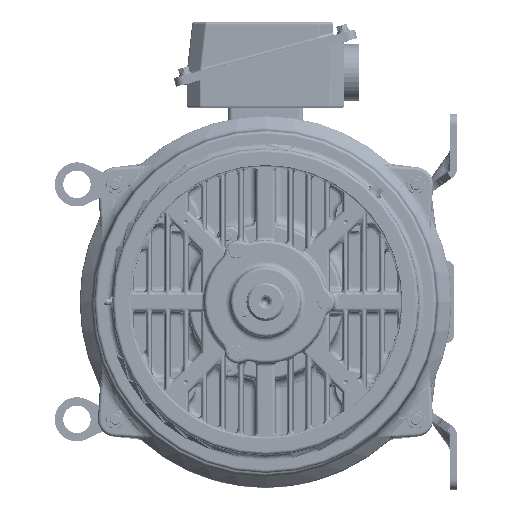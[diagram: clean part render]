
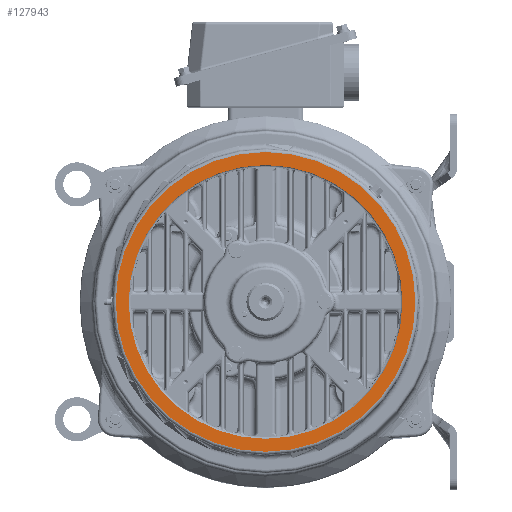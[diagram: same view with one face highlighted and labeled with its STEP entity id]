
A CAD part, left-side view. The second image highlights one B-rep face of the part: STEP entity #127943.
In plain terms, the highlighted planar face has unit normal (-1, 0, 0).
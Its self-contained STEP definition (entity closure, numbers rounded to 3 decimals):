
#9593 = DIRECTION ( 'NONE',  ( 0., 0., 1. ) ) ;
#14271 = VERTEX_POINT ( 'NONE', #148088 ) ;
#19451 = ORIENTED_EDGE ( 'NONE', *, *, #134058, .T. ) ;
#20753 = AXIS2_PLACEMENT_3D ( 'NONE', #177042, #99075, #173035 ) ;
#36304 = DIRECTION ( 'NONE',  ( 0., 0., 1. ) ) ;
#40017 = CARTESIAN_POINT ( 'NONE',  ( -2.913, 0., -5. ) ) ;
#47477 = CARTESIAN_POINT ( 'NONE',  ( -2.913, 0., 0. ) ) ;
#49544 = PLANE ( 'NONE',  #20753 ) ;
#55705 = AXIS2_PLACEMENT_3D ( 'NONE', #108838, #170575, #109827 ) ;
#65723 = FACE_OUTER_BOUND ( 'NONE', #128439, .T. ) ;
#69618 = EDGE_CURVE ( 'NONE', #105429, #157065, #150948, .T. ) ;
#73034 = ORIENTED_EDGE ( 'NONE', *, *, #167149, .F. ) ;
#74325 = CARTESIAN_POINT ( 'NONE',  ( -2.913, 0., 0. ) ) ;
#74747 = CIRCLE ( 'NONE', #184768, 5.472 ) ;
#81908 = FACE_BOUND ( 'NONE', #122211, .T. ) ;
#86882 = ORIENTED_EDGE ( 'NONE', *, *, #69618, .F. ) ;
#99075 = DIRECTION ( 'NONE',  ( -1., 0., 0. ) ) ;
#102343 = CIRCLE ( 'NONE', #154064, 5.472 ) ;
#102705 = DIRECTION ( 'NONE',  ( -1., 0., 0. ) ) ;
#105429 = VERTEX_POINT ( 'NONE', #160950 ) ;
#108838 = CARTESIAN_POINT ( 'NONE',  ( -2.913, 0., 0. ) ) ;
#109827 = DIRECTION ( 'NONE',  ( 0., 0., 1. ) ) ;
#115432 = AXIS2_PLACEMENT_3D ( 'NONE', #74325, #102705, #197845 ) ;
#116852 = CARTESIAN_POINT ( 'NONE',  ( -2.913, 0., 0. ) ) ;
#122211 = EDGE_LOOP ( 'NONE', ( #86882, #73034 ) ) ;
#124349 = EDGE_CURVE ( 'NONE', #14271, #193539, #74747, .T. ) ;
#127943 = ADVANCED_FACE ( 'NONE', ( #65723, #81908 ), #49544, .T. ) ;
#128439 = EDGE_LOOP ( 'NONE', ( #19451, #172534 ) ) ;
#134058 = EDGE_CURVE ( 'NONE', #193539, #14271, #102343, .T. ) ;
#143021 = CIRCLE ( 'NONE', #55705, 5. ) ;
#148088 = CARTESIAN_POINT ( 'NONE',  ( -2.913, 0., -5.472 ) ) ;
#150948 = CIRCLE ( 'NONE', #115432, 5. ) ;
#154064 = AXIS2_PLACEMENT_3D ( 'NONE', #47477, #158759, #36304 ) ;
#157065 = VERTEX_POINT ( 'NONE', #40017 ) ;
#158759 = DIRECTION ( 'NONE',  ( -1., 0., 0. ) ) ;
#160950 = CARTESIAN_POINT ( 'NONE',  ( -2.913, 0., 5. ) ) ;
#163415 = DIRECTION ( 'NONE',  ( -1., 0., 0. ) ) ;
#167149 = EDGE_CURVE ( 'NONE', #157065, #105429, #143021, .T. ) ;
#169921 = CARTESIAN_POINT ( 'NONE',  ( -2.913, 0., 5.472 ) ) ;
#170575 = DIRECTION ( 'NONE',  ( -1., 0., 0. ) ) ;
#172534 = ORIENTED_EDGE ( 'NONE', *, *, #124349, .T. ) ;
#173035 = DIRECTION ( 'NONE',  ( 0., 0., 1. ) ) ;
#177042 = CARTESIAN_POINT ( 'NONE',  ( -2.913, -5., 0. ) ) ;
#184768 = AXIS2_PLACEMENT_3D ( 'NONE', #116852, #163415, #9593 ) ;
#193539 = VERTEX_POINT ( 'NONE', #169921 ) ;
#197845 = DIRECTION ( 'NONE',  ( 0., 0., 1. ) ) ;
